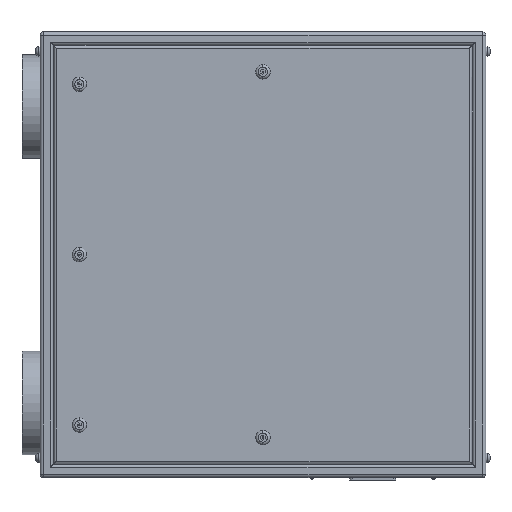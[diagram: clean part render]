
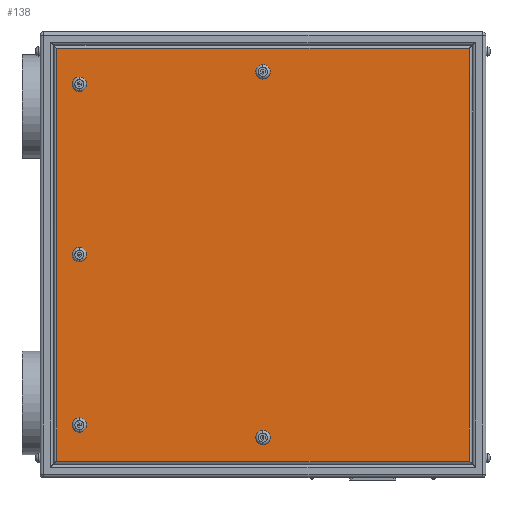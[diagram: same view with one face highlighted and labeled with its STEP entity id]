
A CAD part, left-side view. The second image highlights one B-rep face of the part: STEP entity #138.
In plain terms, the highlighted planar face has unit normal (-1, 0, 0).
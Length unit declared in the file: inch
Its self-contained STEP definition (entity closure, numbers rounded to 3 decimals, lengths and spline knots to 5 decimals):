
#26 = ORIENTED_EDGE ( 'NONE', *, *, #12928, .F. ) ;
#128 = AXIS2_PLACEMENT_3D ( 'NONE', #4050, #9271, #14473 ) ;
#138 = ADVANCED_FACE ( 'NONE', ( #11260, #831, #13817, #9895, #15093, #3562 ), #2118, .F. ) ;
#659 = DIRECTION ( 'NONE',  ( 0., 0., -1. ) ) ;
#743 = CARTESIAN_POINT ( 'NONE',  ( -8.5, 17., -17. ) ) ;
#831 = FACE_BOUND ( 'NONE', #9794, .T. ) ;
#880 = CARTESIAN_POINT ( 'NONE',  ( -8.5, -15.74, 15.74 ) ) ;
#1103 = DIRECTION ( 'NONE',  ( 0., 0., -1. ) ) ;
#1183 = DIRECTION ( 'NONE',  ( 1., 0., 0. ) ) ;
#1220 = VERTEX_POINT ( 'NONE', #880 ) ;
#1306 = CIRCLE ( 'NONE', #16334, 0.55 ) ;
#1420 = EDGE_CURVE ( 'NONE', #3594, #7071, #8073, .T. ) ;
#1464 = DIRECTION ( 'NONE',  ( 0., 0., -1. ) ) ;
#1542 = ORIENTED_EDGE ( 'NONE', *, *, #16634, .T. ) ;
#1560 = DIRECTION ( 'NONE',  ( 1., 0., 0. ) ) ;
#1922 = ORIENTED_EDGE ( 'NONE', *, *, #2791, .T. ) ;
#1985 = CARTESIAN_POINT ( 'NONE',  ( -8.5, 0., -14.5 ) ) ;
#2054 = DIRECTION ( 'NONE',  ( -1., 0., 0. ) ) ;
#2118 = PLANE ( 'NONE',  #13882 ) ;
#2700 = EDGE_LOOP ( 'NONE', ( #7998, #26 ) ) ;
#2791 = EDGE_CURVE ( 'NONE', #14990, #10639, #3537, .T. ) ;
#3038 = CIRCLE ( 'NONE', #11797, 0.55 ) ;
#3122 = VECTOR ( 'NONE', #16431, 39.37008 ) ;
#3143 = VERTEX_POINT ( 'NONE', #15127 ) ;
#3230 = VERTEX_POINT ( 'NONE', #11553 ) ;
#3332 = CARTESIAN_POINT ( 'NONE',  ( -8.5, 14., -13. ) ) ;
#3382 = ORIENTED_EDGE ( 'NONE', *, *, #15594, .T. ) ;
#3457 = DIRECTION ( 'NONE',  ( 0., -1., 0. ) ) ;
#3537 = LINE ( 'NONE', #11232, #3122 ) ;
#3562 = FACE_OUTER_BOUND ( 'NONE', #13303, .T. ) ;
#3594 = VERTEX_POINT ( 'NONE', #3885 ) ;
#3711 = CARTESIAN_POINT ( 'NONE',  ( -8.5, 0., 13.95 ) ) ;
#3885 = CARTESIAN_POINT ( 'NONE',  ( -8.5, 0., 14.5 ) ) ;
#3940 = DIRECTION ( 'NONE',  ( 1., 0., 0. ) ) ;
#4010 = EDGE_CURVE ( 'NONE', #3143, #1220, #9774, .T. ) ;
#4050 = CARTESIAN_POINT ( 'NONE',  ( -8.5, 14., 13. ) ) ;
#4488 = CARTESIAN_POINT ( 'NONE',  ( -8.5, 0., 13.95 ) ) ;
#4497 = DIRECTION ( 'NONE',  ( 0., 0., -1. ) ) ;
#4527 = ORIENTED_EDGE ( 'NONE', *, *, #1420, .T. ) ;
#4728 = CARTESIAN_POINT ( 'NONE',  ( -8.5, 17., -15.74 ) ) ;
#4783 = DIRECTION ( 'NONE',  ( 0., 0., -1. ) ) ;
#5142 = VECTOR ( 'NONE', #5429, 39.37008 ) ;
#5358 = AXIS2_PLACEMENT_3D ( 'NONE', #6387, #16746, #10158 ) ;
#5429 = DIRECTION ( 'NONE',  ( 0., 1., 0. ) ) ;
#5585 = DIRECTION ( 'NONE',  ( 0., 0., -1. ) ) ;
#5621 = AXIS2_PLACEMENT_3D ( 'NONE', #3332, #2054, #4783 ) ;
#5798 = CARTESIAN_POINT ( 'NONE',  ( -8.5, 15.74, -15.74 ) ) ;
#5805 = AXIS2_PLACEMENT_3D ( 'NONE', #4488, #9720, #5585 ) ;
#5901 = CARTESIAN_POINT ( 'NONE',  ( -8.5, -15.74, -17. ) ) ;
#6111 = CIRCLE ( 'NONE', #128, 0.55 ) ;
#6387 = CARTESIAN_POINT ( 'NONE',  ( -8.5, 0., -13.95 ) ) ;
#6515 = CARTESIAN_POINT ( 'NONE',  ( -8.5, 0., -13.95 ) ) ;
#7071 = VERTEX_POINT ( 'NONE', #13766 ) ;
#7308 = LINE ( 'NONE', #4728, #14053 ) ;
#7310 = CIRCLE ( 'NONE', #5358, 0.55 ) ;
#7544 = DIRECTION ( 'NONE',  ( 0., 0., 1. ) ) ;
#7815 = CARTESIAN_POINT ( 'NONE',  ( -8.5, 14., -13. ) ) ;
#7841 = ORIENTED_EDGE ( 'NONE', *, *, #13914, .T. ) ;
#7998 = ORIENTED_EDGE ( 'NONE', *, *, #8194, .F. ) ;
#8003 = LINE ( 'NONE', #15960, #5142 ) ;
#8073 = CIRCLE ( 'NONE', #15981, 0.55 ) ;
#8194 = EDGE_CURVE ( 'NONE', #3230, #14806, #3038, .T. ) ;
#8316 = VECTOR ( 'NONE', #13419, 39.37008 ) ;
#8396 = ORIENTED_EDGE ( 'NONE', *, *, #11025, .T. ) ;
#8604 = ORIENTED_EDGE ( 'NONE', *, *, #9225, .T. ) ;
#8719 = CARTESIAN_POINT ( 'NONE',  ( -8.5, 14., 13.55 ) ) ;
#8822 = CIRCLE ( 'NONE', #5805, 0.55 ) ;
#8870 = AXIS2_PLACEMENT_3D ( 'NONE', #13270, #1560, #1464 ) ;
#9171 = DIRECTION ( 'NONE',  ( 0., 0., -1. ) ) ;
#9225 = EDGE_CURVE ( 'NONE', #7071, #3594, #8822, .T. ) ;
#9271 = DIRECTION ( 'NONE',  ( 1., 0., 0. ) ) ;
#9473 = CARTESIAN_POINT ( 'NONE',  ( -8.5, 14., 12.45 ) ) ;
#9720 = DIRECTION ( 'NONE',  ( 1., 0., 0. ) ) ;
#9729 = ORIENTED_EDGE ( 'NONE', *, *, #4010, .T. ) ;
#9774 = LINE ( 'NONE', #5901, #8316 ) ;
#9794 = EDGE_LOOP ( 'NONE', ( #8604, #4527 ) ) ;
#9827 = CARTESIAN_POINT ( 'NONE',  ( -8.5, 14., -12.45 ) ) ;
#9895 = FACE_BOUND ( 'NONE', #2700, .T. ) ;
#9905 = ORIENTED_EDGE ( 'NONE', *, *, #12573, .T. ) ;
#10158 = DIRECTION ( 'NONE',  ( 0., 0., 1. ) ) ;
#10301 = DIRECTION ( 'NONE',  ( 0., 0., -1. ) ) ;
#10439 = DIRECTION ( 'NONE',  ( 1., 0., 0. ) ) ;
#10639 = VERTEX_POINT ( 'NONE', #5798 ) ;
#10856 = CIRCLE ( 'NONE', #5621, 0.55 ) ;
#10960 = EDGE_CURVE ( 'NONE', #15827, #12565, #6111, .T. ) ;
#11011 = CARTESIAN_POINT ( 'NONE',  ( -8.5, 14., 13. ) ) ;
#11025 = EDGE_CURVE ( 'NONE', #10639, #3143, #7308, .T. ) ;
#11090 = ORIENTED_EDGE ( 'NONE', *, *, #11138, .T. ) ;
#11115 = CIRCLE ( 'NONE', #12195, 0.55 ) ;
#11138 = EDGE_CURVE ( 'NONE', #14266, #16440, #16243, .T. ) ;
#11232 = CARTESIAN_POINT ( 'NONE',  ( -8.5, 15.74, -17. ) ) ;
#11260 = FACE_BOUND ( 'NONE', #14042, .T. ) ;
#11446 = AXIS2_PLACEMENT_3D ( 'NONE', #11011, #13828, #659 ) ;
#11473 = CARTESIAN_POINT ( 'NONE',  ( -8.5, 14., 0. ) ) ;
#11553 = CARTESIAN_POINT ( 'NONE',  ( -8.5, 14., -13.55 ) ) ;
#11797 = AXIS2_PLACEMENT_3D ( 'NONE', #7815, #12783, #10301 ) ;
#12116 = VERTEX_POINT ( 'NONE', #1985 ) ;
#12195 = AXIS2_PLACEMENT_3D ( 'NONE', #11473, #1183, #1103 ) ;
#12248 = CIRCLE ( 'NONE', #11446, 0.55 ) ;
#12521 = EDGE_LOOP ( 'NONE', ( #11090, #3382 ) ) ;
#12565 = VERTEX_POINT ( 'NONE', #8719 ) ;
#12573 = EDGE_CURVE ( 'NONE', #12116, #16144, #7310, .T. ) ;
#12783 = DIRECTION ( 'NONE',  ( -1., 0., 0. ) ) ;
#12928 = EDGE_CURVE ( 'NONE', #14806, #3230, #10856, .T. ) ;
#13103 = ORIENTED_EDGE ( 'NONE', *, *, #16127, .T. ) ;
#13270 = CARTESIAN_POINT ( 'NONE',  ( -8.5, 14., 0. ) ) ;
#13303 = EDGE_LOOP ( 'NONE', ( #8396, #9729, #7841, #1922 ) ) ;
#13419 = DIRECTION ( 'NONE',  ( 0., 0., 1. ) ) ;
#13766 = CARTESIAN_POINT ( 'NONE',  ( -8.5, 0., 13.4 ) ) ;
#13817 = FACE_BOUND ( 'NONE', #12521, .T. ) ;
#13828 = DIRECTION ( 'NONE',  ( 1., 0., 0. ) ) ;
#13882 = AXIS2_PLACEMENT_3D ( 'NONE', #743, #15025, #4497 ) ;
#13914 = EDGE_CURVE ( 'NONE', #1220, #14990, #8003, .T. ) ;
#14023 = CARTESIAN_POINT ( 'NONE',  ( -8.5, 0., -13.4 ) ) ;
#14042 = EDGE_LOOP ( 'NONE', ( #9905, #13103 ) ) ;
#14053 = VECTOR ( 'NONE', #3457, 39.37008 ) ;
#14249 = CARTESIAN_POINT ( 'NONE',  ( -8.5, 14., 0.55 ) ) ;
#14266 = VERTEX_POINT ( 'NONE', #16541 ) ;
#14403 = EDGE_LOOP ( 'NONE', ( #16562, #1542 ) ) ;
#14473 = DIRECTION ( 'NONE',  ( 0., 0., -1. ) ) ;
#14561 = CARTESIAN_POINT ( 'NONE',  ( -8.5, 15.74, 15.74 ) ) ;
#14806 = VERTEX_POINT ( 'NONE', #9827 ) ;
#14990 = VERTEX_POINT ( 'NONE', #14561 ) ;
#15025 = DIRECTION ( 'NONE',  ( 1., 0., 0. ) ) ;
#15093 = FACE_BOUND ( 'NONE', #14403, .T. ) ;
#15127 = CARTESIAN_POINT ( 'NONE',  ( -8.5, -15.74, -15.74 ) ) ;
#15594 = EDGE_CURVE ( 'NONE', #16440, #14266, #11115, .T. ) ;
#15827 = VERTEX_POINT ( 'NONE', #9473 ) ;
#15960 = CARTESIAN_POINT ( 'NONE',  ( -8.5, 17., 15.74 ) ) ;
#15981 = AXIS2_PLACEMENT_3D ( 'NONE', #3711, #3940, #9171 ) ;
#16127 = EDGE_CURVE ( 'NONE', #16144, #12116, #1306, .T. ) ;
#16144 = VERTEX_POINT ( 'NONE', #14023 ) ;
#16243 = CIRCLE ( 'NONE', #8870, 0.55 ) ;
#16334 = AXIS2_PLACEMENT_3D ( 'NONE', #6515, #10439, #7544 ) ;
#16431 = DIRECTION ( 'NONE',  ( 0., 0., -1. ) ) ;
#16440 = VERTEX_POINT ( 'NONE', #14249 ) ;
#16541 = CARTESIAN_POINT ( 'NONE',  ( -8.5, 14., -0.55 ) ) ;
#16562 = ORIENTED_EDGE ( 'NONE', *, *, #10960, .T. ) ;
#16634 = EDGE_CURVE ( 'NONE', #12565, #15827, #12248, .T. ) ;
#16746 = DIRECTION ( 'NONE',  ( 1., 0., 0. ) ) ;
